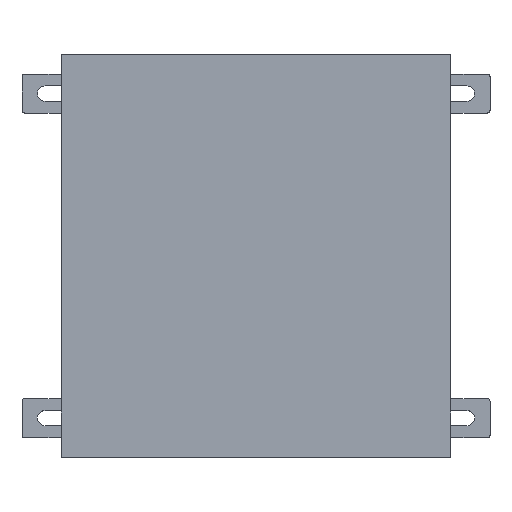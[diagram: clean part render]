
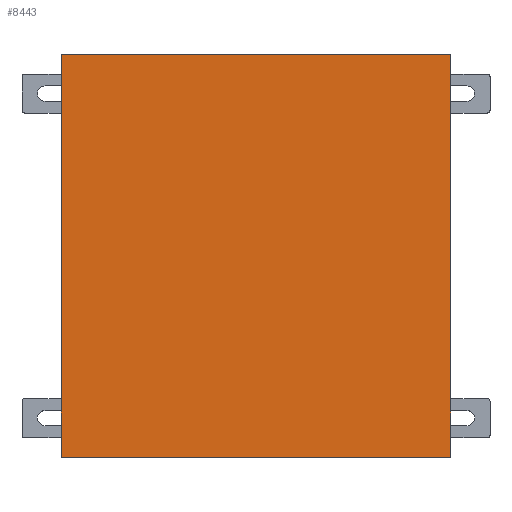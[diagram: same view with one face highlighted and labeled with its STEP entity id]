
A CAD part, top view. The second image highlights one B-rep face of the part: STEP entity #8443.
In plain terms, the highlighted planar face has unit normal (0, 0, 1).
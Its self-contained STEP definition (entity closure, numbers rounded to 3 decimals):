
#1909=DIRECTION('',(0.,-1.,0.));
#1910=VECTOR('',#1909,310.);
#1911=CARTESIAN_POINT('',(-150.,155.,80.));
#1912=LINE('',#1911,#1910);
#1913=DIRECTION('',(-1.,0.,0.));
#1914=VECTOR('',#1913,300.);
#1915=CARTESIAN_POINT('',(150.,155.,80.));
#1916=LINE('',#1915,#1914);
#1917=DIRECTION('',(0.,1.,0.));
#1918=VECTOR('',#1917,310.);
#1919=CARTESIAN_POINT('',(150.,-155.,80.));
#1920=LINE('',#1919,#1918);
#1921=DIRECTION('',(1.,0.,0.));
#1922=VECTOR('',#1921,300.);
#1923=CARTESIAN_POINT('',(-150.,-155.,80.));
#1924=LINE('',#1923,#1922);
#5421=CARTESIAN_POINT('',(-150.,155.,80.));
#5422=CARTESIAN_POINT('',(-150.,-155.,80.));
#5423=VERTEX_POINT('',#5421);
#5424=VERTEX_POINT('',#5422);
#5425=CARTESIAN_POINT('',(150.,-155.,80.));
#5426=VERTEX_POINT('',#5425);
#5427=CARTESIAN_POINT('',(150.,155.,80.));
#5428=VERTEX_POINT('',#5427);
#8432=CARTESIAN_POINT('',(0.,0.,80.));
#8433=DIRECTION('',(0.,0.,1.));
#8434=DIRECTION('',(1.,0.,0.));
#8435=AXIS2_PLACEMENT_3D('',#8432,#8433,#8434);
#8436=PLANE('',#8435);
#8437=ORIENTED_EDGE('',*,*,#8244,.F.);
#8438=ORIENTED_EDGE('',*,*,#8426,.F.);
#8439=ORIENTED_EDGE('',*,*,#8400,.F.);
#8440=ORIENTED_EDGE('',*,*,#8373,.F.);
#8441=EDGE_LOOP('',(#8437,#8438,#8439,#8440));
#8442=FACE_OUTER_BOUND('',#8441,.F.);
#8443=ADVANCED_FACE('',(#8442),#8436,.T.);
#8244=EDGE_CURVE('',#5423,#5424,#1912,.T.);
#8373=EDGE_CURVE('',#5424,#5426,#1924,.T.);
#8400=EDGE_CURVE('',#5426,#5428,#1920,.T.);
#8426=EDGE_CURVE('',#5428,#5423,#1916,.T.);
